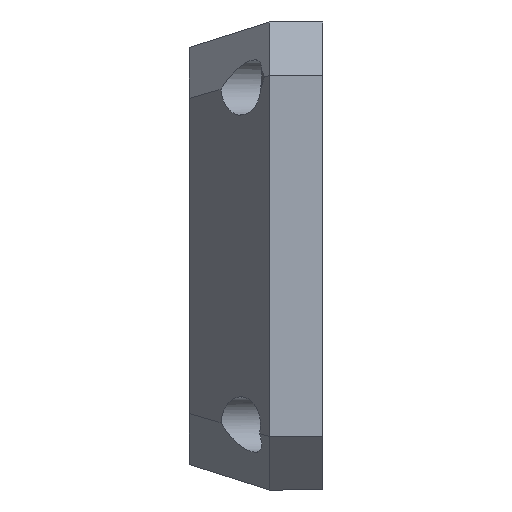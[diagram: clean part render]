
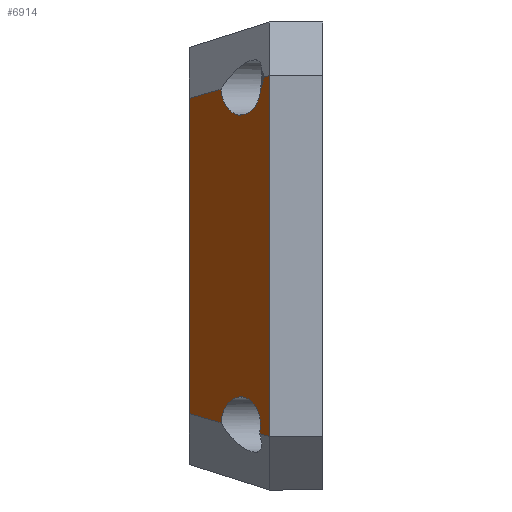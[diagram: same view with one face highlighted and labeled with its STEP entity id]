
A CAD part, left-side view. The second image highlights one B-rep face of the part: STEP entity #6914.
In plain terms, the highlighted planar face has unit normal (-0.581, 0.814, 0).
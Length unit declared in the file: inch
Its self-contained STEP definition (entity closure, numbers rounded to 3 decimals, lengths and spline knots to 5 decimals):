
#111 = VERTEX_POINT ( 'NONE', #8531 ) ;
#178 = VERTEX_POINT ( 'NONE', #3042 ) ;
#236 = EDGE_CURVE ( 'NONE', #178, #1450, #8820, .T. ) ;
#304 = VERTEX_POINT ( 'NONE', #3555 ) ;
#679 = EDGE_LOOP ( 'NONE', ( #3075, #3825, #2063, #2475, #5706, #2359, #7798, #6766, #6667 ) ) ;
#680 = EDGE_CURVE ( 'NONE', #5827, #304, #8761, .T. ) ;
#702 = EDGE_CURVE ( 'NONE', #178, #111, #6552, .T. ) ;
#773 = CARTESIAN_POINT ( 'NONE',  ( -3.74529, 1.48677, -2.19023 ) ) ;
#780 = CARTESIAN_POINT ( 'NONE',  ( -3.70494, 1.5156, -2.44966 ) ) ;
#868 = DIRECTION ( 'NONE',  ( 0.581, -0.814, 0. ) ) ;
#999 = VECTOR ( 'NONE', #7348, 39.37008 ) ;
#1106 = DIRECTION ( 'NONE',  ( 0.803, 0.573, 0.164 ) ) ;
#1450 = VERTEX_POINT ( 'NONE', #1718 ) ;
#1481 = VECTOR ( 'NONE', #7765, 39.37008 ) ;
#1669 = EDGE_CURVE ( 'NONE', #3879, #3830, #8381, .T. ) ;
#1718 = CARTESIAN_POINT ( 'NONE',  ( -4.53932, 0.91961, 2.45506 ) ) ;
#1733 = CARTESIAN_POINT ( 'NONE',  ( -3.07087, 1.9685, 2.3204 ) ) ;
#1734 = AXIS2_PLACEMENT_3D ( 'NONE', #3846, #868, #2913 ) ;
#2054 = CARTESIAN_POINT ( 'NONE',  ( -4.60497, 0.87271, -2.36547 ) ) ;
#2063 = ORIENTED_EDGE ( 'NONE', *, *, #5852, .F. ) ;
#2308 = CARTESIAN_POINT ( 'NONE',  ( -3.72843, 1.49881, 2.45445 ) ) ;
#2359 = ORIENTED_EDGE ( 'NONE', *, *, #3375, .T. ) ;
#2456 =( BOUNDED_CURVE ( )  B_SPLINE_CURVE ( 3, ( #7025, #5439, #9283, #5615 ),
 .UNSPECIFIED., .F., .T. ) 
 B_SPLINE_CURVE_WITH_KNOTS ( ( 4, 4 ),
 ( 0.0622, 3.07788 ),
 .UNSPECIFIED. ) 
 CURVE ( )  GEOMETRIC_REPRESENTATION_ITEM ( )  RATIONAL_B_SPLINE_CURVE ( ( 1., 0.375, 0.375, 1. ) ) 
 REPRESENTATION_ITEM ( '' )  );
#2475 = ORIENTED_EDGE ( 'NONE', *, *, #7347, .F. ) ;
#2618 = CARTESIAN_POINT ( 'NONE',  ( -3.70494, 1.5156, -2.44966 ) ) ;
#2643 = VERTEX_POINT ( 'NONE', #2308 ) ;
#2732 = LINE ( 'NONE', #4817, #1481 ) ;
#2793 = EDGE_CURVE ( 'NONE', #111, #5827, #2732, .T. ) ;
#2913 = DIRECTION ( 'NONE',  ( 0.814, 0.581, 0. ) ) ;
#3042 = CARTESIAN_POINT ( 'NONE',  ( -4.62073, 0.86146, 2.63635 ) ) ;
#3053 = VECTOR ( 'NONE', #3711, 39.37008 ) ;
#3075 = ORIENTED_EDGE ( 'NONE', *, *, #236, .T. ) ;
#3081 = DIRECTION ( 'NONE',  ( 0.803, 0.573, 0.164 ) ) ;
#3085 = VERTEX_POINT ( 'NONE', #1733 ) ;
#3349 = LINE ( 'NONE', #7830, #3429 ) ;
#3375 = EDGE_CURVE ( 'NONE', #3879, #304, #7121, .T. ) ;
#3407 = CARTESIAN_POINT ( 'NONE',  ( -3.72843, 1.49881, -2.45445 ) ) ;
#3429 = VECTOR ( 'NONE', #9405, 39.37008 ) ;
#3555 = CARTESIAN_POINT ( 'NONE',  ( -4.51706, 0.93551, -2.61521 ) ) ;
#3621 = DIRECTION ( 'NONE',  ( 0.393, 0.281, -0.876 ) ) ;
#3647 = FACE_OUTER_BOUND ( 'NONE', #679, .T. ) ;
#3704 = CARTESIAN_POINT ( 'NONE',  ( -4.47443, 0.96596, -2.13514 ) ) ;
#3711 = DIRECTION ( 'NONE',  ( -0.803, -0.573, 0.164 ) ) ;
#3825 = ORIENTED_EDGE ( 'NONE', *, *, #3886, .T. ) ;
#3830 = VERTEX_POINT ( 'NONE', #7632 ) ;
#3846 = CARTESIAN_POINT ( 'NONE',  ( -4.72441, 0.7874, 5.10291 ) ) ;
#3879 = VERTEX_POINT ( 'NONE', #3407 ) ;
#3886 = EDGE_CURVE ( 'NONE', #1450, #2643, #2456, .T. ) ;
#4285 = VECTOR ( 'NONE', #1106, 39.37008 ) ;
#4326 = CARTESIAN_POINT ( 'NONE',  ( -4.215, 1.15126, -2.08225 ) ) ;
#4418 = PLANE ( 'NONE',  #1734 ) ;
#4425 = CARTESIAN_POINT ( 'NONE',  ( -4.51706, 0.93551, -2.61521 ) ) ;
#4426 = VECTOR ( 'NONE', #3621, 39.37008 ) ;
#4817 = CARTESIAN_POINT ( 'NONE',  ( -4.72441, 0.7874, 5.10291 ) ) ;
#5091 = CARTESIAN_POINT ( 'NONE',  ( -3.72843, 1.49881, -2.45445 ) ) ;
#5147 = CARTESIAN_POINT ( 'NONE',  ( -5.04566, 0.55793, 2.72297 ) ) ;
#5439 = CARTESIAN_POINT ( 'NONE',  ( -4.49455, 0.95159, 1.7362 ) ) ;
#5615 = CARTESIAN_POINT ( 'NONE',  ( -3.72843, 1.49881, 2.45445 ) ) ;
#5706 = ORIENTED_EDGE ( 'NONE', *, *, #1669, .F. ) ;
#5763 = CARTESIAN_POINT ( 'NONE',  ( -3.95558, 1.33656, -2.02937 ) ) ;
#5783 = CARTESIAN_POINT ( 'NONE',  ( -4.62073, 0.86146, 2.63635 ) ) ;
#5827 = VERTEX_POINT ( 'NONE', #6843 ) ;
#5852 = EDGE_CURVE ( 'NONE', #3085, #2643, #8163, .T. ) ;
#6552 = LINE ( 'NONE', #5147, #3053 ) ;
#6594 = VECTOR ( 'NONE', #3081, 39.37008 ) ;
#6667 = ORIENTED_EDGE ( 'NONE', *, *, #702, .F. ) ;
#6766 = ORIENTED_EDGE ( 'NONE', *, *, #2793, .F. ) ;
#6843 = CARTESIAN_POINT ( 'NONE',  ( -4.72441, 0.7874, -2.65748 ) ) ;
#6914 = ADVANCED_FACE ( 'NONE', ( #3647 ), #4418, .F. ) ;
#7025 = CARTESIAN_POINT ( 'NONE',  ( -4.53932, 0.91961, 2.45506 ) ) ;
#7121 =( BOUNDED_CURVE ( )  B_SPLINE_CURVE ( 3, ( #5091, #773, #5763, #4326, #3704, #2054, #4425 ),
 .UNSPECIFIED., .F., .F. ) 
 B_SPLINE_CURVE_WITH_KNOTS ( ( 4, 3, 4 ),
 ( 3.20531, 4.91349, 6.62166 ),
 .UNSPECIFIED. ) 
 CURVE ( )  GEOMETRIC_REPRESENTATION_ITEM ( )  RATIONAL_B_SPLINE_CURVE ( ( 1., 0.771, 0.771, 1., 0.771, 0.771, 1. ) ) 
 REPRESENTATION_ITEM ( '' )  );
#7248 = CARTESIAN_POINT ( 'NONE',  ( -5.04566, 0.55793, 2.72297 ) ) ;
#7347 = EDGE_CURVE ( 'NONE', #3830, #3085, #3349, .T. ) ;
#7348 = DIRECTION ( 'NONE',  ( -0.803, -0.573, 0.164 ) ) ;
#7632 = CARTESIAN_POINT ( 'NONE',  ( -3.07087, 1.9685, -2.3204 ) ) ;
#7765 = DIRECTION ( 'NONE',  ( 0., 0., -1. ) ) ;
#7798 = ORIENTED_EDGE ( 'NONE', *, *, #680, .F. ) ;
#7830 = CARTESIAN_POINT ( 'NONE',  ( -3.07087, 1.9685, -3.44488 ) ) ;
#8163 = LINE ( 'NONE', #7248, #999 ) ;
#8381 = LINE ( 'NONE', #2618, #4285 ) ;
#8531 = CARTESIAN_POINT ( 'NONE',  ( -4.72441, 0.7874, 2.65748 ) ) ;
#8761 = LINE ( 'NONE', #780, #6594 ) ;
#8820 = LINE ( 'NONE', #5783, #4426 ) ;
#9283 = CARTESIAN_POINT ( 'NONE',  ( -3.77429, 1.46606, 1.73565 ) ) ;
#9405 = DIRECTION ( 'NONE',  ( 0., 0., 1. ) ) ;
